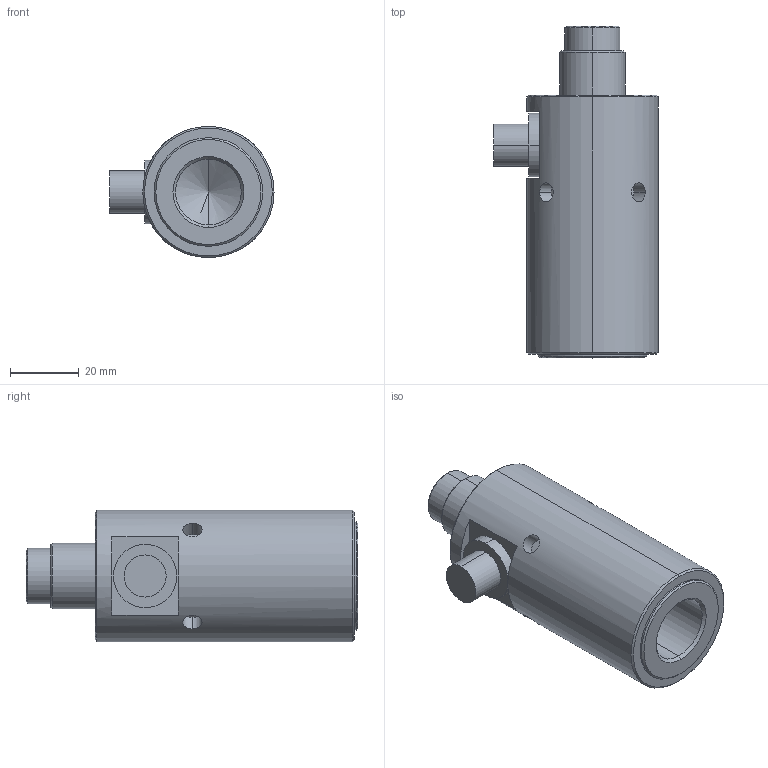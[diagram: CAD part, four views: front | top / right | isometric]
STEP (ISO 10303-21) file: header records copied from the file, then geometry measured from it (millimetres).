
FILE_DESCRIPTION (( 'STEP AP214' ), '1' );
FILE_NAME ('SS1397-40KN.STEP', '2024-08-29T17:16:35', ( '' ), ( '' ), 'SwSTEP 2.0', 'SolidWorks 2008', '' );
FILE_SCHEMA (( 'AUTOMOTIVE_DESIGN' ));
Length unit declared in the file: inch
Products named in the file (1): SS1397-40KN
Bounding box: 47.62 x 96.27 x 38.1 mm (x, y, z)
Volume: 80860.7 mm3; surface area: 15606.1 mm2
Topology: 1 solids, 1 shells, 50 faces, 100 edges, 61 vertices
Faces by surface type: cylinder 22, cone 14, plane 14
Entity records: 1563 total; most frequent: CARTESIAN_POINT 474, DIRECTION 242, ORIENTED_EDGE 196, AXIS2_PLACEMENT_3D 101, EDGE_CURVE 98, VERTEX_POINT 61, EDGE_LOOP 61, CIRCLE 50
